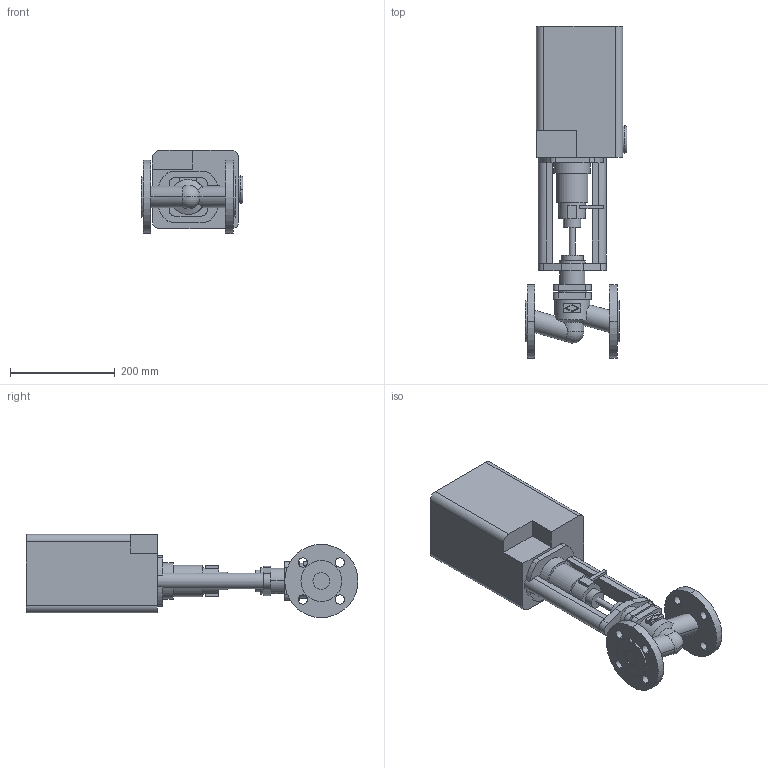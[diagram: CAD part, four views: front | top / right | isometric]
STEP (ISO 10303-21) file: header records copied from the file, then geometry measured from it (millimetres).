
FILE_DESCRIPTION(('OneSpaceDesigner STEP Export'),'2;1');
FILE_NAME('c000000349.stp','2005-02-16T11:34:49',(''),(''),'OneSpace Designer STEP processor (Jan. 2003) for AP203(Solid Model)','OneSpace Designer 12.01D 09-Jul-2004 (C) CoCreate Software GmbH','');
FILE_SCHEMA(('CONFIG_CONTROL_DESIGN'));
Length unit declared in the file: millimetre
Products named in the file (2): 1; 2
Bounding box: 194.6 x 634.5 x 159 mm (x, y, z)
Volume: 7835296.5 mm3; surface area: 412451.4 mm2
Topology: 2 solids, 2 shells, 174 faces, 438 edges, 289 vertices
Faces by surface type: plane 86, cylinder 82, sphere 2, cone 2, torus 2
Entity records: 5221 total; most frequent: CARTESIAN_POINT 1035, ORIENTED_EDGE 872, DIRECTION 778, EDGE_CURVE 436, VERTEX_POINT 289, AXIS2_PLACEMENT_3D 269, VECTOR 240, LINE 240
